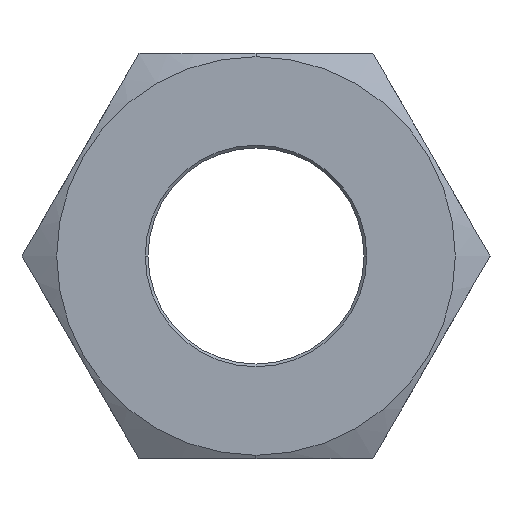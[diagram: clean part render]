
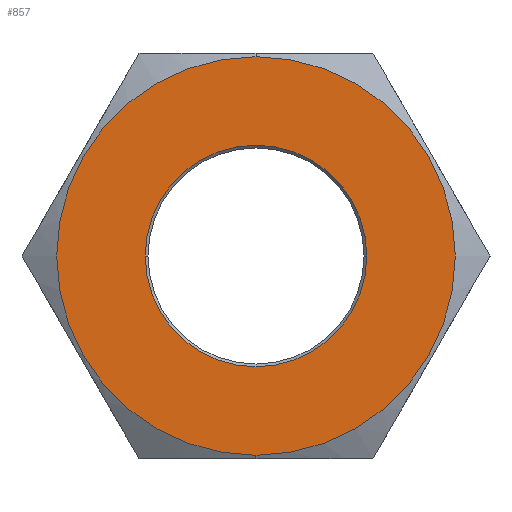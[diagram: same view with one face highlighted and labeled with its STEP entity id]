
A CAD part, left-side view. The second image highlights one B-rep face of the part: STEP entity #857.
In plain terms, the highlighted planar face has unit normal (-1, 0, 0) as drawn and (0, 0, 1) by its records, which use the part's own axes.
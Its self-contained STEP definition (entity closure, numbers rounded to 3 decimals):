
#141=CARTESIAN_POINT('',(14.75,0.0,10.5));
#142=VERTEX_POINT('',#141);
#151=CARTESIAN_POINT('',(-14.75,0.,10.5));
#152=VERTEX_POINT('',#151);
#153=CARTESIAN_POINT('',(0.,0.0,10.5));
#154=DIRECTION('',(0.0,0.0,1.0));
#155=DIRECTION('',(1.0,0.0,0.0));
#156=AXIS2_PLACEMENT_3D('',#153,#154,#155);
#157=CIRCLE('',#156,14.75);
#158=EDGE_CURVE('',#152,#142,#157,.T.);
#471=CARTESIAN_POINT('',(0.,8.2,10.5));
#472=VERTEX_POINT('',#471);
#480=CARTESIAN_POINT('',(0.,-8.2,10.5));
#481=VERTEX_POINT('',#480);
#488=CARTESIAN_POINT('',(0.,0.,10.5));
#489=DIRECTION('',(0.0,0.0,-1.0));
#490=DIRECTION('',(0.0,1.0,0.0));
#491=AXIS2_PLACEMENT_3D('',#488,#489,#490);
#492=CIRCLE('',#491,8.2);
#493=EDGE_CURVE('',#472,#481,#492,.T.);
#504=CARTESIAN_POINT('',(0.,0.,10.5));
#505=DIRECTION('',(0.0,0.0,-1.0));
#506=DIRECTION('',(0.0,1.0,0.0));
#507=AXIS2_PLACEMENT_3D('',#504,#505,#506);
#508=CIRCLE('',#507,8.2);
#509=EDGE_CURVE('',#481,#472,#508,.T.);
#728=CARTESIAN_POINT('',(0.,0.0,10.5));
#729=DIRECTION('',(0.0,0.0,1.0));
#730=DIRECTION('',(1.0,0.0,0.0));
#731=AXIS2_PLACEMENT_3D('',#728,#729,#730);
#732=CIRCLE('',#731,14.75);
#733=EDGE_CURVE('',#142,#152,#732,.T.);
#844=CARTESIAN_POINT('',(0.,0.,10.5));
#845=DIRECTION('',(0.0,0.0,1.0));
#846=DIRECTION('',(1.0,0.0,0.0));
#847=AXIS2_PLACEMENT_3D('',#844,#845,#846);
#848=PLANE('',#847);
#849=ORIENTED_EDGE('',*,*,#733,.T.);
#850=ORIENTED_EDGE('',*,*,#158,.T.);
#851=EDGE_LOOP('',(#849,#850));
#852=FACE_OUTER_BOUND('',#851,.T.);
#853=ORIENTED_EDGE('',*,*,#493,.T.);
#854=ORIENTED_EDGE('',*,*,#509,.T.);
#855=EDGE_LOOP('',(#853,#854));
#856=FACE_BOUND('',#855,.T.);
#857=ADVANCED_FACE('',(#852,#856),#848,.T.);
